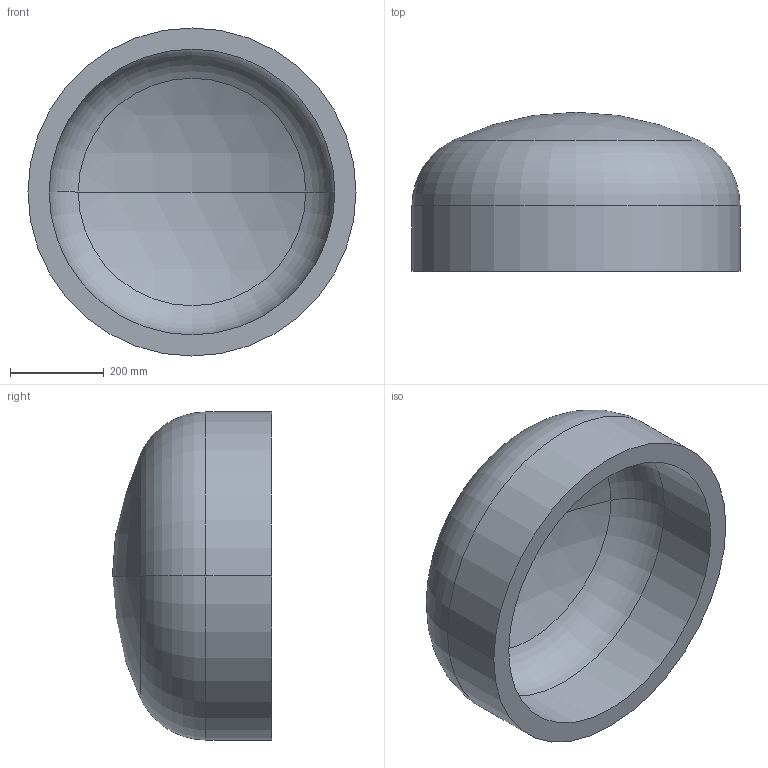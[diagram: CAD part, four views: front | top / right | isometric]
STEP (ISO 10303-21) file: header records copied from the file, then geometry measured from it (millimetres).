
FILE_DESCRIPTION (( 'STEP AP203' ), '1' );
FILE_NAME ('DIN 28013 Korbbogenform_-_Boden DIN 28013 - 700 x 140 - I - s=45.step', '2016-07-01T08:08:13', ( '' ), ( '' ), 'SwSTEP 2.0', 'SolidWorks 2013', '' );
FILE_SCHEMA (( 'CONFIG_CONTROL_DESIGN' ));
Length unit declared in the file: millimetre
Products named in the file (1): DIN 28013 Korbbogenform_-_Boden DIN 28013 - 700 x 140 - I - s=45
Bounding box: 700 x 339.44 x 700 mm (x, y, z)
Volume: 35161513.1 mm3; surface area: 1659573.3 mm2
Topology: 1 solids, 1 shells, 13 faces, 24 edges, 14 vertices
Faces by surface type: torus 4, cylinder 4, sphere 4, plane 1
Entity records: 407 total; most frequent: DIRECTION 72, CARTESIAN_POINT 52, ORIENTED_EDGE 48, AXIS2_PLACEMENT_3D 34, EDGE_CURVE 24, CIRCLE 20, VERTEX_POINT 14, EDGE_LOOP 14
